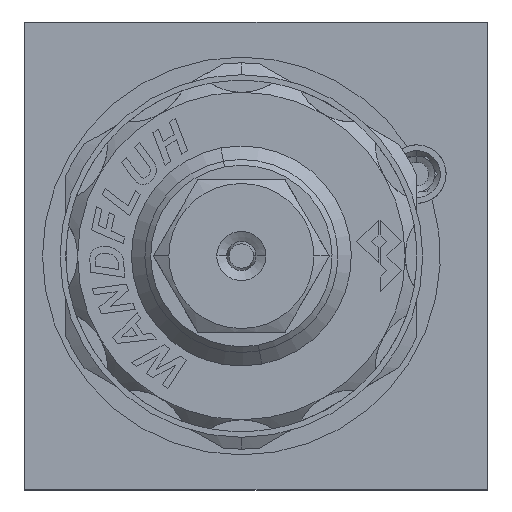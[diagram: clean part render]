
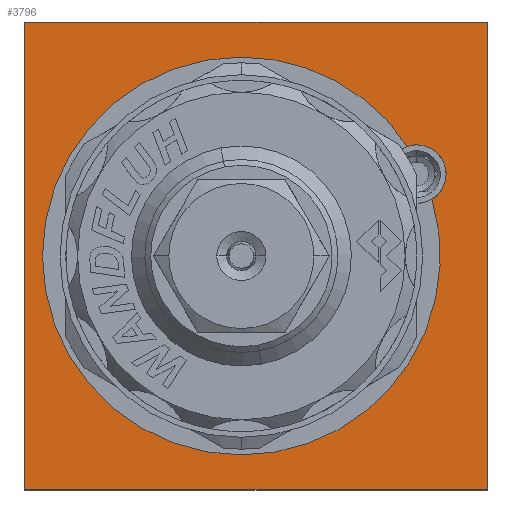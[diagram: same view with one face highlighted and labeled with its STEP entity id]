
A CAD part, left-side view. The second image highlights one B-rep face of the part: STEP entity #3796.
In plain terms, the highlighted planar face has unit normal (-1, 0, 0).
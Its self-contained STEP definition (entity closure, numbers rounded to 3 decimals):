
#1 = EDGE_CURVE ( 'NONE', #9382, #11645, #6975, .T. ) ;
#120 = VERTEX_POINT ( 'NONE', #16495 ) ;
#313 = FACE_BOUND ( 'NONE', #11398, .T. ) ;
#354 = FACE_OUTER_BOUND ( 'NONE', #15336, .T. ) ;
#700 = CARTESIAN_POINT ( 'NONE',  ( 0., 18.75, 19. ) ) ;
#749 = EDGE_CURVE ( 'NONE', #11645, #15372, #11726, .T. ) ;
#871 = ORIENTED_EDGE ( 'NONE', *, *, #16419, .T. ) ;
#897 = EDGE_CURVE ( 'NONE', #120, #8478, #12374, .T. ) ;
#903 = LINE ( 'NONE', #8326, #14727 ) ;
#911 = ORIENTED_EDGE ( 'NONE', *, *, #5530, .T. ) ;
#1766 = CARTESIAN_POINT ( 'NONE',  ( 0., 0.25, -1. ) ) ;
#1823 = CIRCLE ( 'NONE', #4466, 2.5 ) ;
#2002 = CARTESIAN_POINT ( 'NONE',  ( 0., 18.75, 19. ) ) ;
#2048 = ORIENTED_EDGE ( 'NONE', *, *, #1, .F. ) ;
#2497 = ORIENTED_EDGE ( 'NONE', *, *, #12118, .F. ) ;
#2584 = DIRECTION ( 'NONE',  ( 0., 0., 1. ) ) ;
#3141 = DIRECTION ( 'NONE',  ( 0., 0., 1. ) ) ;
#3376 = DIRECTION ( 'NONE',  ( 0., 0., -1. ) ) ;
#3796 = ADVANCED_FACE ( 'NONE', ( #354, #313 ), #6005, .F. ) ;
#4287 = DIRECTION ( 'NONE',  ( 0., 0., 1. ) ) ;
#4466 = AXIS2_PLACEMENT_3D ( 'NONE', #14009, #6039, #15337 ) ;
#4744 = EDGE_CURVE ( 'NONE', #14404, #15482, #11598, .T. ) ;
#5530 = EDGE_CURVE ( 'NONE', #8034, #8522, #6818, .T. ) ;
#5618 = CARTESIAN_POINT ( 'NONE',  ( 0., -20.75, -21. ) ) ;
#5852 = AXIS2_PLACEMENT_3D ( 'NONE', #1766, #11175, #3141 ) ;
#5986 = CARTESIAN_POINT ( 'NONE',  ( 0., 0.25, -1. ) ) ;
#6005 = PLANE ( 'NONE',  #17017 ) ;
#6038 = CARTESIAN_POINT ( 'NONE',  ( 0., -13.938, 8.365 ) ) ;
#6039 = DIRECTION ( 'NONE',  ( -1., 0., 0. ) ) ;
#6182 = DIRECTION ( 'NONE',  ( 0., 1., 0. ) ) ;
#6348 = CARTESIAN_POINT ( 'NONE',  ( 0., -20.75, 19. ) ) ;
#6460 = CARTESIAN_POINT ( 'NONE',  ( 0., 18.75, -21.707 ) ) ;
#6686 = CARTESIAN_POINT ( 'NONE',  ( 0., 0.25, -1. ) ) ;
#6710 = DIRECTION ( 'NONE',  ( -1., 0., 0. ) ) ;
#6818 = LINE ( 'NONE', #12816, #9855 ) ;
#6975 = CIRCLE ( 'NONE', #17300, 17. ) ;
#7327 = AXIS2_PLACEMENT_3D ( 'NONE', #9924, #9939, #10334 ) ;
#7510 = ORIENTED_EDGE ( 'NONE', *, *, #4744, .F. ) ;
#7594 = ORIENTED_EDGE ( 'NONE', *, *, #897, .F. ) ;
#8034 = VERTEX_POINT ( 'NONE', #6348 ) ;
#8326 = CARTESIAN_POINT ( 'NONE',  ( 0., -20.75, -21.707 ) ) ;
#8478 = VERTEX_POINT ( 'NONE', #6038 ) ;
#8522 = VERTEX_POINT ( 'NONE', #700 ) ;
#8759 = CARTESIAN_POINT ( 'NONE',  ( 0., 0.25, 16. ) ) ;
#9382 = VERTEX_POINT ( 'NONE', #8759 ) ;
#9688 = CARTESIAN_POINT ( 'NONE',  ( 0., -21.457, -21. ) ) ;
#9703 = LINE ( 'NONE', #6460, #16698 ) ;
#9855 = VECTOR ( 'NONE', #6182, 1000. ) ;
#9924 = CARTESIAN_POINT ( 'NONE',  ( 0., -14.75, 6. ) ) ;
#9939 = DIRECTION ( 'NONE',  ( -1., 0., 0. ) ) ;
#10334 = DIRECTION ( 'NONE',  ( 0., 0., 1. ) ) ;
#10462 = ORIENTED_EDGE ( 'NONE', *, *, #749, .F. ) ;
#10889 = DIRECTION ( 'NONE',  ( -1., 0., 0. ) ) ;
#11028 = EDGE_CURVE ( 'NONE', #8478, #9382, #14108, .T. ) ;
#11050 = DIRECTION ( 'NONE',  ( 0., 1., 0. ) ) ;
#11175 = DIRECTION ( 'NONE',  ( -1., 0., 0. ) ) ;
#11383 = DIRECTION ( 'NONE',  ( 1., 0., 0. ) ) ;
#11398 = EDGE_LOOP ( 'NONE', ( #14647, #7594, #16267, #10462, #2048 ) ) ;
#11598 = LINE ( 'NONE', #9688, #11614 ) ;
#11614 = VECTOR ( 'NONE', #11050, 1000. ) ;
#11645 = VERTEX_POINT ( 'NONE', #14383 ) ;
#11726 = CIRCLE ( 'NONE', #13873, 17. ) ;
#12118 = EDGE_CURVE ( 'NONE', #15482, #8522, #9703, .T. ) ;
#12374 = CIRCLE ( 'NONE', #7327, 2.5 ) ;
#12816 = CARTESIAN_POINT ( 'NONE',  ( 0., -21.457, 19. ) ) ;
#13652 = DIRECTION ( 'NONE',  ( 0., 0., 1. ) ) ;
#13873 = AXIS2_PLACEMENT_3D ( 'NONE', #6686, #6710, #4287 ) ;
#13976 = CARTESIAN_POINT ( 'NONE',  ( 0., 18.75, -21. ) ) ;
#14009 = CARTESIAN_POINT ( 'NONE',  ( 0., -14.75, 6. ) ) ;
#14108 = CIRCLE ( 'NONE', #5852, 17. ) ;
#14383 = CARTESIAN_POINT ( 'NONE',  ( 0., 0.25, -18. ) ) ;
#14404 = VERTEX_POINT ( 'NONE', #5618 ) ;
#14647 = ORIENTED_EDGE ( 'NONE', *, *, #11028, .F. ) ;
#14727 = VECTOR ( 'NONE', #13652, 1000. ) ;
#15336 = EDGE_LOOP ( 'NONE', ( #2497, #7510, #871, #911 ) ) ;
#15337 = DIRECTION ( 'NONE',  ( 0., 0., 1. ) ) ;
#15372 = VERTEX_POINT ( 'NONE', #16361 ) ;
#15482 = VERTEX_POINT ( 'NONE', #13976 ) ;
#15706 = DIRECTION ( 'NONE',  ( 0., 0., 1. ) ) ;
#15986 = EDGE_CURVE ( 'NONE', #15372, #120, #1823, .T. ) ;
#16267 = ORIENTED_EDGE ( 'NONE', *, *, #15986, .F. ) ;
#16361 = CARTESIAN_POINT ( 'NONE',  ( 0., -16.041, 3.859 ) ) ;
#16419 = EDGE_CURVE ( 'NONE', #14404, #8034, #903, .T. ) ;
#16495 = CARTESIAN_POINT ( 'NONE',  ( 0., -14.75, 8.5 ) ) ;
#16698 = VECTOR ( 'NONE', #15706, 1000. ) ;
#17017 = AXIS2_PLACEMENT_3D ( 'NONE', #2002, #11383, #3376 ) ;
#17300 = AXIS2_PLACEMENT_3D ( 'NONE', #5986, #10889, #2584 ) ;
